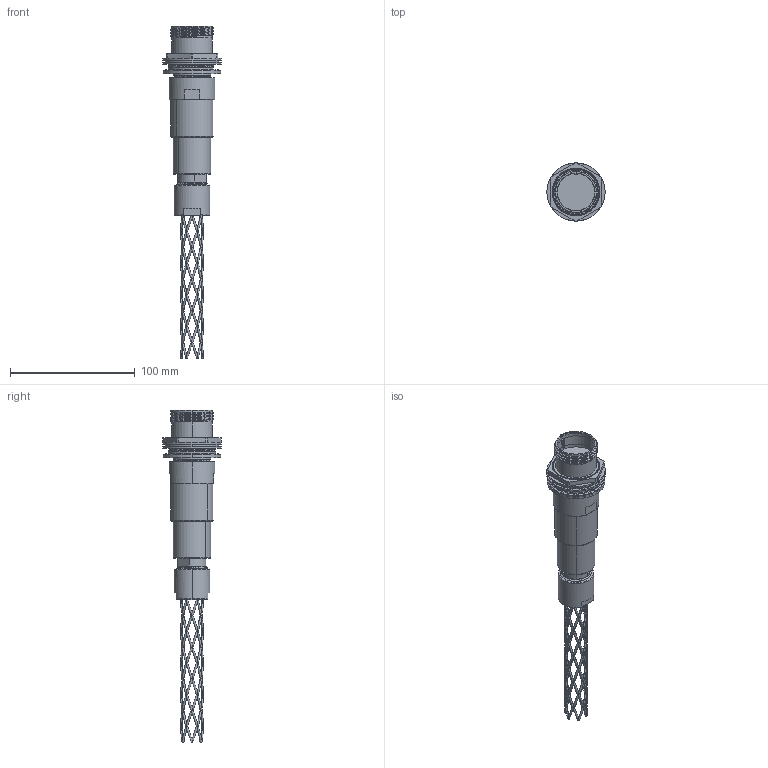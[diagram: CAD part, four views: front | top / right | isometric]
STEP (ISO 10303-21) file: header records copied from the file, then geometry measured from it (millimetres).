
FILE_DESCRIPTION (( 'STEP AP214' ), '1' );
FILE_NAME ('QPLEX3-RJFX-XXXX-GXXX.STEP', '2025-04-07T22:44:04', ( '' ), ( '' ), 'SwSTEP 2.0', 'SolidWorks 2024', '' );
FILE_SCHEMA (( 'AUTOMOTIVE_DESIGN' ));
Products named in the file (1): QPLEX3-RJFX-XXXX-GXXX
Bounding box: 46.74 x 46.74 x 266.42 mm (x, y, z)
Volume: 122345.6 mm3; surface area: 33368.8 mm2
Topology: 2 solids, 2 shells, 440 faces, 1268 edges, 730 vertices
Faces by surface type: bspline 257, cylinder 80, plane 61, torus 23, cone 19
Entity records: 118574 total; most frequent: CARTESIAN_POINT 110114, ORIENTED_EDGE 2536, EDGE_CURVE 1268, DIRECTION 1015, VERTEX_POINT 730, EDGE_LOOP 460, ADVANCED_FACE 440, FACE_OUTER_BOUND 440
